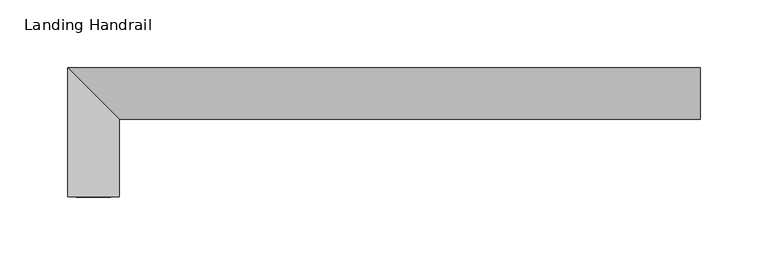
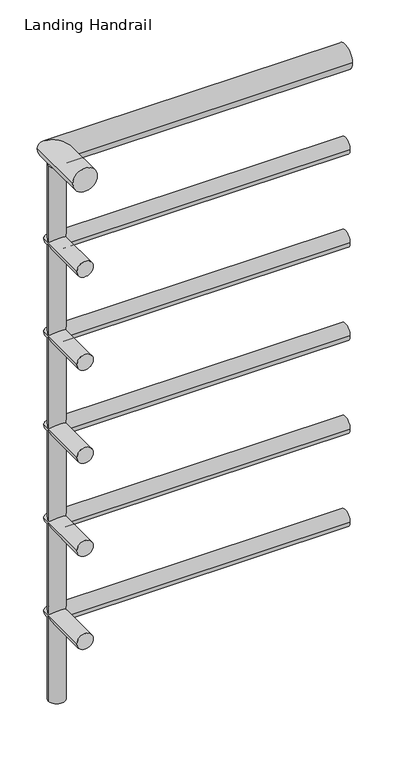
"""IFC4 building model written with IfcOpenShell, lengths in millimetres: railing geometry, Landing Handrail."""

from ifc_helpers import new_model, si_unit, point, frame, frame_2d, origin, place, context, project, spatial, circle_curve, ellipse_curve, trimmed, segment, composite_curve, outline, extrude, source, transform, mapped, element, save
from ifc_brep_helpers import plane_surface, cylinder_surface, advanced_brep


def landing_handrail_2c0271a0(model_context):
    return source(origin(), model_context, "Body", "SolidModel", [
        advanced_brep(
        [(-20724.262755, 4235.2987109, 6381.75), (-20686.162755, 4235.2987109, 6381.75), (-20724.262755, 4330.5487109, 6381.75), (-20686.162755, 4292.4487109, 6381.75), (-20257.537755, 4330.5487109, 6381.75), (-20257.537755, 4292.4487109, 6381.75)],
        [
            (0, 1, circle_curve(frame((-20705.212755, 4235.2987109, 6381.75), z_axis=(0.0, -1.0, 0.0), x_axis=(1.0, 0.0, 0.0)), 19.05)),
            (1, 0, circle_curve(frame((-20705.212755, 4235.2987109, 6381.75), z_axis=(0.0, -1.0, 0.0), x_axis=(1.0, 0.0, 0.0)), 19.05)),
            (0, 2),
            (2, 3, ellipse_curve(frame((-20705.212755, 4311.4987109, 6381.75), z_axis=(-0.7071067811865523, -0.7071067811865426, 0.0), x_axis=(0.7071067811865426, -0.7071067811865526, 0.0)), 26.9407684, 19.05)),
            (3, 1),
            (3, 2, ellipse_curve(frame((-20705.212755, 4311.4987109, 6381.75), z_axis=(-0.7071067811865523, -0.7071067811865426, 0.0), x_axis=(0.7071067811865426, -0.7071067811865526, 0.0)), 26.9407684, 19.05)),
            (4, 5, circle_curve(frame((-20257.537755, 4311.4987109, 6381.75), z_axis=(1.0, 0.0, 0.0), x_axis=(0.0, -1.0, 0.0)), 19.05)),
            (5, 4, circle_curve(frame((-20257.537755, 4311.4987109, 6381.75), z_axis=(1.0, 0.0, 0.0), x_axis=(0.0, -1.0, 0.0)), 19.05)),
            (2, 4),
            (5, 3),
        ],
        [
            plane_surface(frame((-20705.212755, 4235.2987109, 6400.8), z_axis=(0.0, -1.0, 0.0), x_axis=(0.0, 0.0, 1.0))),
            cylinder_surface(frame((-20705.212755, 4235.2987109, 6381.75), z_axis=(0.0, -1.0, 0.0), x_axis=(1.0, 0.0, 0.0)), 19.05),
            plane_surface(frame((-20257.537755, 4311.4987109, 6400.8), z_axis=(1.0, 0.0, 0.0), x_axis=(0.0, 1.0, 0.0))),
            cylinder_surface(frame((-20705.212755, 4311.4987109, 6381.75), z_axis=(-1.0, 0.0, 0.0), x_axis=(0.0, -1.0, 0.0)), 19.05),
        ],
        [
            (0, [[1, 2]]),
            (1, [[-1, 3, 4, 5]]),
            (1, [[-2, -5, 6, -3]]),
            (2, [[7, 8]]),
            (3, [[-4, 9, -8, 10]]),
            (3, [[-6, -10, -7, -9]]),
        ],
    ),
        advanced_brep(
        [(-20717.912755, 4235.2987109, 6235.7), (-20692.512755, 4235.2987109, 6235.7), (-20717.912755, 4324.1987109, 6235.7), (-20692.512755, 4298.7987109, 6235.7), (-20257.537755, 4324.1987109, 6235.7), (-20257.537755, 4298.7987109, 6235.7)],
        [
            (0, 1, circle_curve(frame((-20705.212755, 4235.2987109, 6235.7), z_axis=(0.0, -1.0, 0.0), x_axis=(1.0, 0.0, 0.0)), 12.7)),
            (1, 0, circle_curve(frame((-20705.212755, 4235.2987109, 6235.7), z_axis=(0.0, -1.0, 0.0), x_axis=(1.0, 0.0, 0.0)), 12.7)),
            (0, 2),
            (2, 3, ellipse_curve(frame((-20705.212755, 4311.4987109, 6235.7), z_axis=(-0.7071067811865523, -0.7071067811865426, 0.0), x_axis=(0.7071067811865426, -0.7071067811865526, 0.0)), 17.9605122, 12.7)),
            (3, 1),
            (3, 2, ellipse_curve(frame((-20705.212755, 4311.4987109, 6235.7), z_axis=(-0.7071067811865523, -0.7071067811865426, 0.0), x_axis=(0.7071067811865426, -0.7071067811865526, 0.0)), 17.9605122, 12.7)),
            (4, 5, circle_curve(frame((-20257.537755, 4311.4987109, 6235.7), z_axis=(1.0, 0.0, 0.0), x_axis=(0.0, -1.0, 0.0)), 12.7)),
            (5, 4, circle_curve(frame((-20257.537755, 4311.4987109, 6235.7), z_axis=(1.0, 0.0, 0.0), x_axis=(0.0, -1.0, 0.0)), 12.7)),
            (2, 4),
            (5, 3),
        ],
        [
            plane_surface(frame((-20705.212755, 4235.2987109, 6248.4), z_axis=(0.0, -1.0, 0.0), x_axis=(0.0, 0.0, 1.0))),
            cylinder_surface(frame((-20705.212755, 4235.2987109, 6235.7), z_axis=(0.0, -1.0, 0.0), x_axis=(1.0, 0.0, 0.0)), 12.7),
            plane_surface(frame((-20257.537755, 4311.4987109, 6248.4), z_axis=(1.0, 0.0, 0.0), x_axis=(0.0, 1.0, 0.0))),
            cylinder_surface(frame((-20705.212755, 4311.4987109, 6235.7), z_axis=(-1.0, 0.0, 0.0), x_axis=(0.0, -1.0, 0.0)), 12.7),
        ],
        [
            (0, [[1, 2]]),
            (1, [[-1, 3, 4, 5]]),
            (1, [[-2, -5, 6, -3]]),
            (2, [[7, 8]]),
            (3, [[-4, 9, -8, 10]]),
            (3, [[-6, -10, -7, -9]]),
        ],
    ),
        advanced_brep(
        [(-20717.912755, 4235.2987109, 6083.3), (-20692.512755, 4235.2987109, 6083.3), (-20717.912755, 4324.1987109, 6083.3), (-20692.512755, 4298.7987109, 6083.3), (-20257.537755, 4324.1987109, 6083.3), (-20257.537755, 4298.7987109, 6083.3)],
        [
            (0, 1, circle_curve(frame((-20705.212755, 4235.2987109, 6083.3), z_axis=(0.0, -1.0, 0.0), x_axis=(1.0, 0.0, 0.0)), 12.7)),
            (1, 0, circle_curve(frame((-20705.212755, 4235.2987109, 6083.3), z_axis=(0.0, -1.0, 0.0), x_axis=(1.0, 0.0, 0.0)), 12.7)),
            (0, 2),
            (2, 3, ellipse_curve(frame((-20705.212755, 4311.4987109, 6083.3), z_axis=(-0.7071067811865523, -0.7071067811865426, 0.0), x_axis=(0.7071067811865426, -0.7071067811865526, 0.0)), 17.9605122, 12.7)),
            (3, 1),
            (3, 2, ellipse_curve(frame((-20705.212755, 4311.4987109, 6083.3), z_axis=(-0.7071067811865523, -0.7071067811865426, 0.0), x_axis=(0.7071067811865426, -0.7071067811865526, 0.0)), 17.9605122, 12.7)),
            (4, 5, circle_curve(frame((-20257.537755, 4311.4987109, 6083.3), z_axis=(1.0, 0.0, 0.0), x_axis=(0.0, -1.0, 0.0)), 12.7)),
            (5, 4, circle_curve(frame((-20257.537755, 4311.4987109, 6083.3), z_axis=(1.0, 0.0, 0.0), x_axis=(0.0, -1.0, 0.0)), 12.7)),
            (2, 4),
            (5, 3),
        ],
        [
            plane_surface(frame((-20705.212755, 4235.2987109, 6096.0), z_axis=(0.0, -1.0, 0.0), x_axis=(0.0, 0.0, 1.0))),
            cylinder_surface(frame((-20705.212755, 4235.2987109, 6083.3), z_axis=(0.0, -1.0, 0.0), x_axis=(1.0, 0.0, 0.0)), 12.7),
            plane_surface(frame((-20257.537755, 4311.4987109, 6096.0), z_axis=(1.0, 0.0, 0.0), x_axis=(0.0, 1.0, 0.0))),
            cylinder_surface(frame((-20705.212755, 4311.4987109, 6083.3), z_axis=(-1.0, 0.0, 0.0), x_axis=(0.0, -1.0, 0.0)), 12.7),
        ],
        [
            (0, [[1, 2]]),
            (1, [[-1, 3, 4, 5]]),
            (1, [[-2, -5, 6, -3]]),
            (2, [[7, 8]]),
            (3, [[-4, 9, -8, 10]]),
            (3, [[-6, -10, -7, -9]]),
        ],
    ),
        advanced_brep(
        [(-20717.912755, 4235.2987109, 5930.9), (-20692.512755, 4235.2987109, 5930.9), (-20717.912755, 4324.1987109, 5930.9), (-20692.512755, 4298.7987109, 5930.9), (-20257.537755, 4324.1987109, 5930.9), (-20257.537755, 4298.7987109, 5930.9)],
        [
            (0, 1, circle_curve(frame((-20705.212755, 4235.2987109, 5930.9), z_axis=(0.0, -1.0, 0.0), x_axis=(1.0, 0.0, 0.0)), 12.7)),
            (1, 0, circle_curve(frame((-20705.212755, 4235.2987109, 5930.9), z_axis=(0.0, -1.0, 0.0), x_axis=(1.0, 0.0, 0.0)), 12.7)),
            (0, 2),
            (2, 3, ellipse_curve(frame((-20705.212755, 4311.4987109, 5930.9), z_axis=(-0.7071067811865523, -0.7071067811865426, 0.0), x_axis=(0.7071067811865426, -0.7071067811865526, 0.0)), 17.9605122, 12.7)),
            (3, 1),
            (3, 2, ellipse_curve(frame((-20705.212755, 4311.4987109, 5930.9), z_axis=(-0.7071067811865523, -0.7071067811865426, 0.0), x_axis=(0.7071067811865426, -0.7071067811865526, 0.0)), 17.9605122, 12.7)),
            (4, 5, circle_curve(frame((-20257.537755, 4311.4987109, 5930.9), z_axis=(1.0, 0.0, 0.0), x_axis=(0.0, -1.0, 0.0)), 12.7)),
            (5, 4, circle_curve(frame((-20257.537755, 4311.4987109, 5930.9), z_axis=(1.0, 0.0, 0.0), x_axis=(0.0, -1.0, 0.0)), 12.7)),
            (2, 4),
            (5, 3),
        ],
        [
            plane_surface(frame((-20705.212755, 4235.2987109, 5943.6), z_axis=(0.0, -1.0, 0.0), x_axis=(0.0, 0.0, 1.0))),
            cylinder_surface(frame((-20705.212755, 4235.2987109, 5930.9), z_axis=(0.0, -1.0, 0.0), x_axis=(1.0, 0.0, 0.0)), 12.7),
            plane_surface(frame((-20257.537755, 4311.4987109, 5943.6), z_axis=(1.0, 0.0, 0.0), x_axis=(0.0, 1.0, 0.0))),
            cylinder_surface(frame((-20705.212755, 4311.4987109, 5930.9), z_axis=(-1.0, 0.0, 0.0), x_axis=(0.0, -1.0, 0.0)), 12.7),
        ],
        [
            (0, [[1, 2]]),
            (1, [[-1, 3, 4, 5]]),
            (1, [[-2, -5, 6, -3]]),
            (2, [[7, 8]]),
            (3, [[-4, 9, -8, 10]]),
            (3, [[-6, -10, -7, -9]]),
        ],
    ),
        advanced_brep(
        [(-20717.912755, 4235.2987109, 5778.5), (-20692.512755, 4235.2987109, 5778.5), (-20717.912755, 4324.1987109, 5778.5), (-20692.512755, 4298.7987109, 5778.5), (-20257.537755, 4324.1987109, 5778.5), (-20257.537755, 4298.7987109, 5778.5)],
        [
            (0, 1, circle_curve(frame((-20705.212755, 4235.2987109, 5778.5), z_axis=(0.0, -1.0, 0.0), x_axis=(1.0, 0.0, 0.0)), 12.7)),
            (1, 0, circle_curve(frame((-20705.212755, 4235.2987109, 5778.5), z_axis=(0.0, -1.0, 0.0), x_axis=(1.0, 0.0, 0.0)), 12.7)),
            (0, 2),
            (2, 3, ellipse_curve(frame((-20705.212755, 4311.4987109, 5778.5), z_axis=(-0.7071067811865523, -0.7071067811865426, 0.0), x_axis=(0.7071067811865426, -0.7071067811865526, 0.0)), 17.9605122, 12.7)),
            (3, 1),
            (3, 2, ellipse_curve(frame((-20705.212755, 4311.4987109, 5778.5), z_axis=(-0.7071067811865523, -0.7071067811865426, 0.0), x_axis=(0.7071067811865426, -0.7071067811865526, 0.0)), 17.9605122, 12.7)),
            (4, 5, circle_curve(frame((-20257.537755, 4311.4987109, 5778.5), z_axis=(1.0, 0.0, 0.0), x_axis=(0.0, -1.0, 0.0)), 12.7)),
            (5, 4, circle_curve(frame((-20257.537755, 4311.4987109, 5778.5), z_axis=(1.0, 0.0, 0.0), x_axis=(0.0, -1.0, 0.0)), 12.7)),
            (2, 4),
            (5, 3),
        ],
        [
            plane_surface(frame((-20705.212755, 4235.2987109, 5791.2), z_axis=(0.0, -1.0, 0.0), x_axis=(0.0, 0.0, 1.0))),
            cylinder_surface(frame((-20705.212755, 4235.2987109, 5778.5), z_axis=(0.0, -1.0, 0.0), x_axis=(1.0, 0.0, 0.0)), 12.7),
            plane_surface(frame((-20257.537755, 4311.4987109, 5791.2), z_axis=(1.0, 0.0, 0.0), x_axis=(0.0, 1.0, 0.0))),
            cylinder_surface(frame((-20705.212755, 4311.4987109, 5778.5), z_axis=(-1.0, 0.0, 0.0), x_axis=(0.0, -1.0, 0.0)), 12.7),
        ],
        [
            (0, [[1, 2]]),
            (1, [[-1, 3, 4, 5]]),
            (1, [[-2, -5, 6, -3]]),
            (2, [[7, 8]]),
            (3, [[-4, 9, -8, 10]]),
            (3, [[-6, -10, -7, -9]]),
        ],
    ),
        advanced_brep(
        [(-20717.912755, 4235.2987109, 5626.1), (-20692.512755, 4235.2987109, 5626.1), (-20717.912755, 4324.1987109, 5626.1), (-20692.512755, 4298.7987109, 5626.1), (-20257.537755, 4324.1987109, 5626.1), (-20257.537755, 4298.7987109, 5626.1)],
        [
            (0, 1, circle_curve(frame((-20705.212755, 4235.2987109, 5626.1), z_axis=(0.0, -1.0, 0.0), x_axis=(1.0, 0.0, 0.0)), 12.7)),
            (1, 0, circle_curve(frame((-20705.212755, 4235.2987109, 5626.1), z_axis=(0.0, -1.0, 0.0), x_axis=(1.0, 0.0, 0.0)), 12.7)),
            (0, 2),
            (2, 3, ellipse_curve(frame((-20705.212755, 4311.4987109, 5626.1), z_axis=(-0.7071067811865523, -0.7071067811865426, 0.0), x_axis=(0.7071067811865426, -0.7071067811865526, 0.0)), 17.9605122, 12.7)),
            (3, 1),
            (3, 2, ellipse_curve(frame((-20705.212755, 4311.4987109, 5626.1), z_axis=(-0.7071067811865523, -0.7071067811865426, 0.0), x_axis=(0.7071067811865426, -0.7071067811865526, 0.0)), 17.9605122, 12.7)),
            (4, 5, circle_curve(frame((-20257.537755, 4311.4987109, 5626.1), z_axis=(1.0, 0.0, 0.0), x_axis=(0.0, -1.0, 0.0)), 12.7)),
            (5, 4, circle_curve(frame((-20257.537755, 4311.4987109, 5626.1), z_axis=(1.0, 0.0, 0.0), x_axis=(0.0, -1.0, 0.0)), 12.7)),
            (2, 4),
            (5, 3),
        ],
        [
            plane_surface(frame((-20705.212755, 4235.2987109, 5638.8), z_axis=(0.0, -1.0, 0.0), x_axis=(0.0, 0.0, 1.0))),
            cylinder_surface(frame((-20705.212755, 4235.2987109, 5626.1), z_axis=(0.0, -1.0, 0.0), x_axis=(1.0, 0.0, 0.0)), 12.7),
            plane_surface(frame((-20257.537755, 4311.4987109, 5638.8), z_axis=(1.0, 0.0, 0.0), x_axis=(0.0, 1.0, 0.0))),
            cylinder_surface(frame((-20705.212755, 4311.4987109, 5626.1), z_axis=(-1.0, 0.0, 0.0), x_axis=(0.0, -1.0, 0.0)), 12.7),
        ],
        [
            (0, [[1, 2]]),
            (1, [[-1, 3, 4, 5]]),
            (1, [[-2, -5, 6, -3]]),
            (2, [[7, 8]]),
            (3, [[-4, 9, -8, 10]]),
            (3, [[-6, -10, -7, -9]]),
        ],
    ),
        extrude(outline(composite_curve([segment(trimmed(circle_curve(frame_2d((-20705.212755, 4311.4987109)), 12.7), [point((-20717.912755, 4311.4987109))], [point((-20692.512755, 4311.4987109))], False, "CARTESIAN"), True, "CONTINUOUS"), segment(trimmed(circle_curve(frame_2d((-20705.212755, 4311.4987109)), 12.7), [point((-20692.512755, 4311.4987109))], [point((-20717.912755, 4311.4987109))], False, "CARTESIAN"), True, "CONTINUOUS")], self_intersect=False)), frame((0.0, 0.0, 5486.4), z_axis=(0.0, 0.0, 1.0), x_axis=(1.0, 0.0, 0.0)), (0.0, 0.0, 1.0), 876.3),
    ])


if __name__ == "__main__":
    model = new_model("IFC4")
    model_context = context("Model", 3, world=origin())
    ifc_project = project(units=[si_unit("LENGTHUNIT", "METRE", prefix="MILLI")], contexts=[model_context])
    site = spatial("IfcSite", under=ifc_project)
    building = spatial("IfcBuilding", under=site)
    placement = place(None, origin())
    landing_handrail_shape = landing_handrail_2c0271a0(model_context)
    element("IfcRailing", 1, ObjectType="Landing Handrail", at=placement, inside=building, context=model_context, shape_type="MappedRepresentation", body=[
        mapped(landing_handrail_shape, transform((0.0, 0.0, 0.0), x_axis=(1.0, 0.0, 0.0), y_axis=(0.0, 1.0, 0.0), z_axis=(0.0, 0.0, 1.0))),
    ])
    save(model, "model.ifc")
